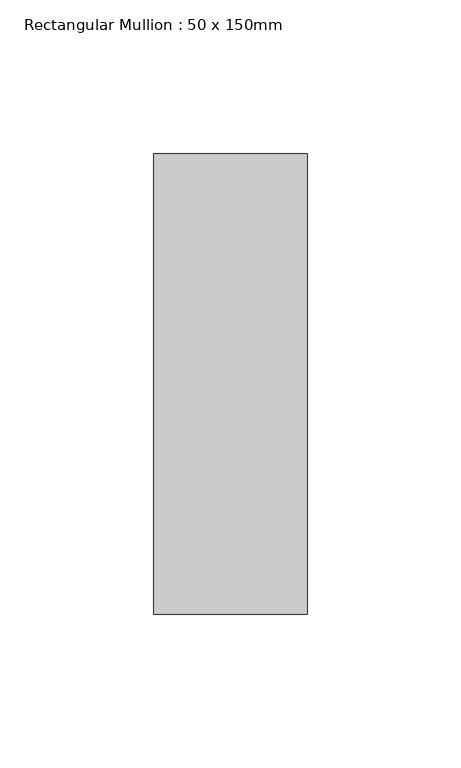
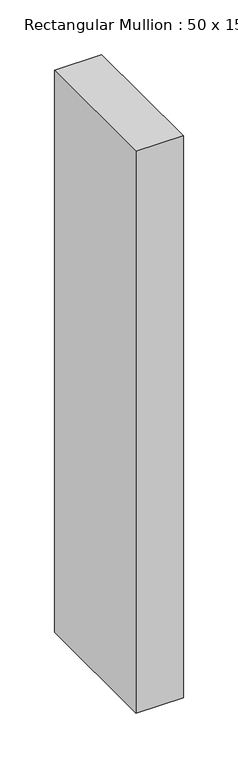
"""IFC4 building model written with IfcOpenShell, lengths in millimetres: member geometry, Rectangular Mullion : 50 x 150mm."""

from ifc_helpers import new_model, si_unit, frame, origin, place, context, project, spatial, polyline, outline, extrude, source, transform, mapped, element, save


def rectangular_mullion_50_x_150mm_487eb0a6(model_context):
    return source(origin(), model_context, "Body", "SweptSolid", [
        extrude(outline(polyline([(0.0, 75.0), (0.0, -75.0), (-50.0, -75.0), (-50.0, 75.0), (0.0, 75.0)])), frame((0.0, 0.0, -628.9558135), z_axis=(0.0, 0.0, 1.0), x_axis=(1.0, 0.0, 0.0)), (0.0, 0.0, 1.0), 628.9558135),
    ])


if __name__ == "__main__":
    model = new_model("IFC4")
    model_context = context("Model", 3, world=origin())
    ifc_project = project(units=[si_unit("LENGTHUNIT", "METRE", prefix="MILLI")], contexts=[model_context])
    site = spatial("IfcSite", under=ifc_project)
    building = spatial("IfcBuilding", under=site)
    placement = place(None, origin())
    rectangular_mullion_50_x_150mm_shape = rectangular_mullion_50_x_150mm_487eb0a6(model_context)
    element("IfcMember", 1, ObjectType="Rectangular Mullion : 50 x 150mm", at=placement, inside=building, context=model_context, shape_type="MappedRepresentation", body=[
        mapped(rectangular_mullion_50_x_150mm_shape, transform((0.0, 0.0, 0.0), x_axis=(1.0, 0.0, 0.0), y_axis=(0.0, 1.0, 0.0), z_axis=(0.0, 0.0, 1.0))),
    ])
    save(model, "model.ifc")
